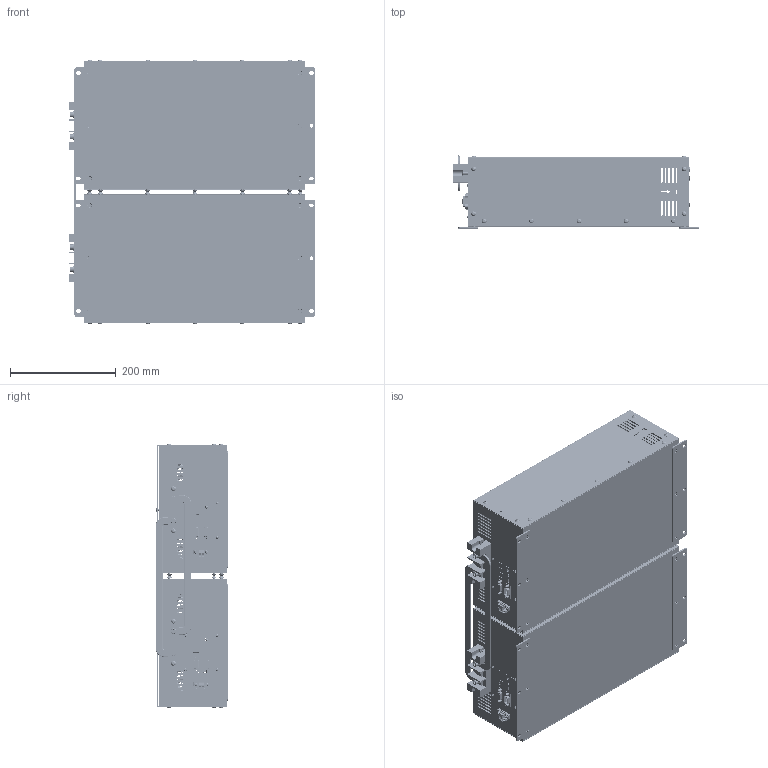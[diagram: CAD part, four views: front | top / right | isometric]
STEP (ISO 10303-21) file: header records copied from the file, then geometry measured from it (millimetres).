
FILE_DESCRIPTION(/* description */ (''),/* implementation_level */ '2;1');
FILE_NAME(/* name */ 'G:\016_배터리 버스바 도면\VX3COM\[3D 도면]\[STEP,IGES]\VX3,VX3COM BUSBAR.stp',/* time_stamp */ '2023-08-24T15:37:10+09:00',/* author */ ('jjang'),/* organization */ (''),/* preprocessor_version */ 'ST-DEVELOPER v18.1',/* originating_system */ 'Autodesk Inventor 2021',/* authorisation */ '');
FILE_SCHEMA (('AUTOMOTIVE_DESIGN { 1 0 10303 214 3 1 1 }'));
Products named in the file (1): $VX3COM BUSBAR ASS'Y_Shrinkwrap_1
Bounding box: 468 x 138.22 x 501.09 mm (x, y, z)
Volume: 1455591.9 mm3; surface area: 1834289.7 mm2
Topology: 16 solids, 16 shells, 9024 faces, 26928 edges, 18634 vertices
Faces by surface type: plane 4764, cylinder 2548, bspline 1264, torus 272, cone 122, sphere 54
Full cylindrical faces by diameter (mm): 0.609 x2, 0.61 x54, 0.635 x18, 0.9 x12, 1.397 x18, 1.4 x2, 2.286 x18, 2.8 x16, 2.957 x8, 3 x4, 3.048 x8, 3.2 x8, 3.6 x20, 3.783 x4, 3.8 x16, 3.9 x4, 4 x62, 4.3 x24, 4.5 x16, 5 x34, 5.3 x40, 5.4 x4, 5.429 x4, 5.6 x8, 5.9 x4, 6 x4, 6.082 x2, 6.2 x6, 6.6 x4, 7 x4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
Entity records: 367513 total; most frequent: CARTESIAN_POINT 120215, ORIENTED_EDGE 53780, DIRECTION 45344, EDGE_CURVE 26890, VERTEX_POINT 18634, AXIS2_PLACEMENT_3D 15543, LINE 14258, VECTOR 14258
